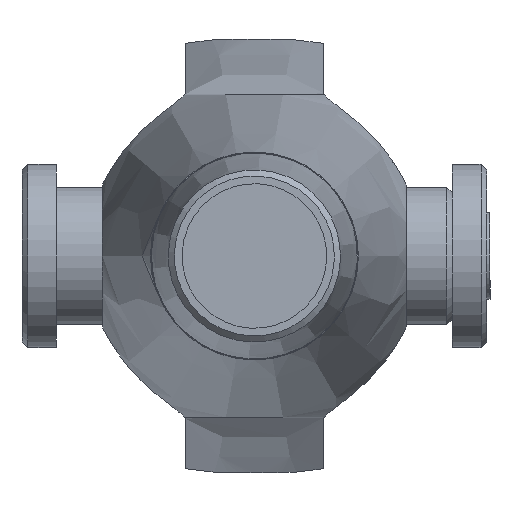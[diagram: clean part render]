
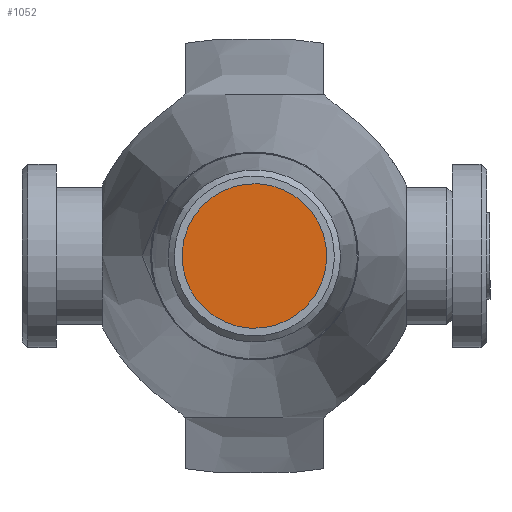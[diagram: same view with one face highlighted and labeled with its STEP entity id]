
A CAD part, left-side view. The second image highlights one B-rep face of the part: STEP entity #1052.
In plain terms, the highlighted planar face has unit normal (-1, 0, 0).
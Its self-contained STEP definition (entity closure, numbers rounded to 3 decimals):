
#83=PLANE('',#1149);
#114=FACE_OUTER_BOUND('',#177,.T.);
#177=EDGE_LOOP('',(#693,#694));
#354=CIRCLE('',#1147,6.3);
#355=CIRCLE('',#1148,6.3);
#421=VERTEX_POINT('',#1600);
#422=VERTEX_POINT('',#1602);
#530=EDGE_CURVE('',#422,#421,#354,.T.);
#531=EDGE_CURVE('',#421,#422,#355,.T.);
#693=ORIENTED_EDGE('',*,*,#530,.T.);
#694=ORIENTED_EDGE('',*,*,#531,.T.);
#1052=ADVANCED_FACE('',(#114),#83,.T.);
#1147=AXIS2_PLACEMENT_3D('',#1603,#1296,#1297);
#1148=AXIS2_PLACEMENT_3D('',#1604,#1298,#1299);
#1149=AXIS2_PLACEMENT_3D('',#1605,#1300,#1301);
#1296=DIRECTION('center_axis',(-1.,0.,0.));
#1297=DIRECTION('ref_axis',(0.,-0.225,0.974));
#1298=DIRECTION('center_axis',(-1.,0.,0.));
#1299=DIRECTION('ref_axis',(0.,-0.225,0.974));
#1300=DIRECTION('center_axis',(-1.,0.,0.));
#1301=DIRECTION('ref_axis',(0.,-0.225,0.974));
#1600=CARTESIAN_POINT('',(-139.5,6.139,1.417));
#1602=CARTESIAN_POINT('',(-139.5,-6.139,-1.417));
#1603=CARTESIAN_POINT('Origin',(-139.5,0.,0.));
#1604=CARTESIAN_POINT('Origin',(-139.5,0.,0.));
#1605=CARTESIAN_POINT('Origin',(-139.5,0.,0.));
